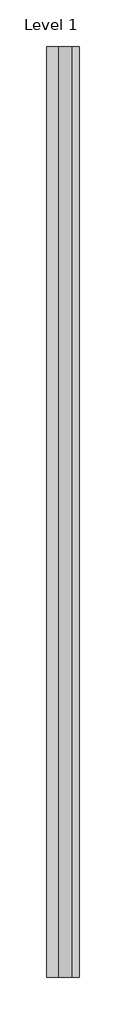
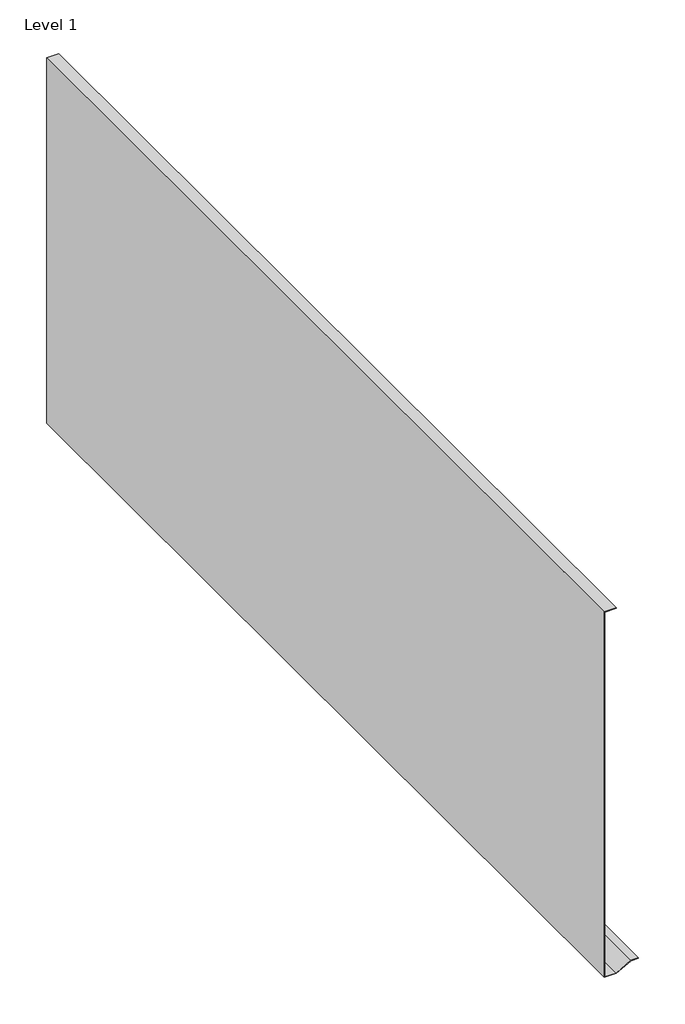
# One storey: 1 proxy.
"""IFC4 building model written with IfcOpenShell, lengths in millimetres."""

from ifc_helpers import new_model, si_unit, origin, place, context, project, spatial, transform, mapped, element, save
from components import bond_lok_fd2_kerb_drip_flashing_family_bond_lok_fd2_kerb_91b61740

model = new_model("IFC4")

# Units and contexts
model_context = context("Model", 3, world=origin())
ifc_project = project(units=[si_unit("LENGTHUNIT", "METRE", prefix="MILLI")], contexts=[model_context])

# Site, building, storey
site = spatial("IfcSite", under=ifc_project)
building = spatial("IfcBuilding", under=site)
storey = spatial("IfcBuildingStorey", under=building, Name="Level 1", Elevation=0.0)

# Proxy
placement = place(None, origin())
bond_lok_fd2_kerb_drip_flashing_family_bond_lok_fd2_kerb_shape = bond_lok_fd2_kerb_drip_flashing_family_bond_lok_fd2_kerb_91b61740(model_context)
element("IfcBuildingElementProxy", 1, Name="Bond-Lok FD2-Kerb Drip Flashing Family : Bond-lok FD2-Kerb Drip Flashing", ObjectType="Bond-Lok FD2-Kerb Drip Flashing Family : Bond-lok FD2-Kerb Drip Flashing", at=placement, inside=storey, context=model_context, shape_type="MappedRepresentation", body=[
    mapped(bond_lok_fd2_kerb_drip_flashing_family_bond_lok_fd2_kerb_shape, transform((2974.6508287, 1301.9657105, 0.0), x_axis=(1.0, 0.0, 0.0), y_axis=(0.0, 1.0, 0.0), z_axis=(0.0, 0.0, 1.0))),
])

save(model, "model.ifc")
